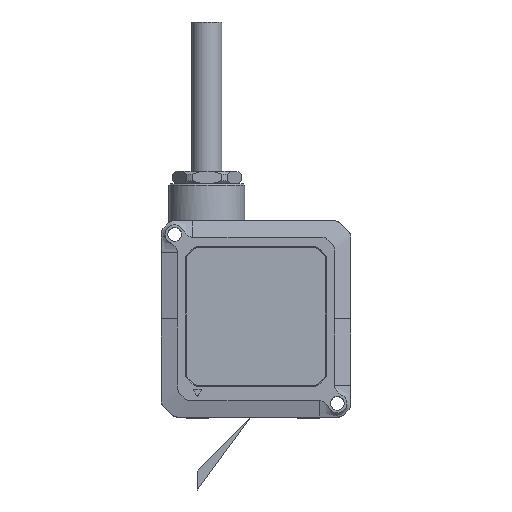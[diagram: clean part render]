
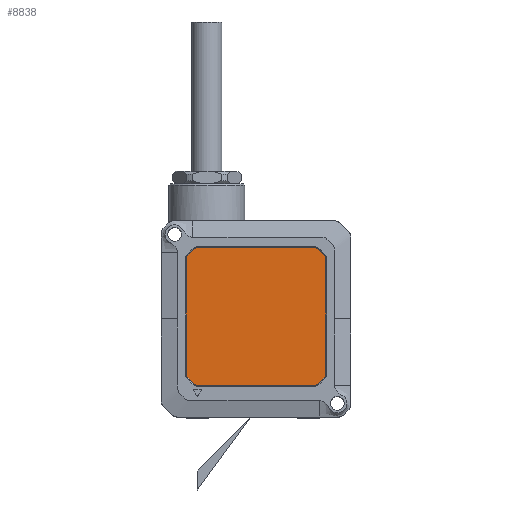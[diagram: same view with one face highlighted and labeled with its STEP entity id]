
A CAD part, top view. The second image highlights one B-rep face of the part: STEP entity #8838.
In plain terms, the highlighted planar face has unit normal (0, 0, 1).
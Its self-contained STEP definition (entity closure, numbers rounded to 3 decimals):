
#5291=CARTESIAN_POINT('',(20.,18.67,38.3));
#5292=DIRECTION('',(0.,0.,-1.));
#5293=DIRECTION('',(0.707,0.707,0.));
#5294=AXIS2_PLACEMENT_3D('',#5291,#5292,#5293);
#5296=DIRECTION('',(0.,-1.,0.));
#5297=VECTOR('',#5296,35.84);
#5298=CARTESIAN_POINT('',(22.1,18.67,38.3));
#5299=LINE('',#5298,#5297);
#5300=CARTESIAN_POINT('',(20.,-17.17,38.3));
#5301=DIRECTION('',(0.,0.,-1.));
#5302=DIRECTION('',(1.,0.,0.));
#5303=AXIS2_PLACEMENT_3D('',#5300,#5301,#5302);
#5305=DIRECTION('',(-0.707,-0.707,0.));
#5306=VECTOR('',#5305,2.588);
#5307=CARTESIAN_POINT('',(21.485,-18.655,38.3));
#5308=LINE('',#5307,#5306);
#5309=CARTESIAN_POINT('',(18.17,-19.,38.3));
#5310=DIRECTION('',(0.,0.,-1.));
#5311=DIRECTION('',(0.707,-0.707,0.));
#5312=AXIS2_PLACEMENT_3D('',#5309,#5310,#5311);
#5314=DIRECTION('',(-1.,0.,0.));
#5315=VECTOR('',#5314,36.34);
#5316=CARTESIAN_POINT('',(18.17,-21.1,38.3));
#5317=LINE('',#5316,#5315);
#5318=CARTESIAN_POINT('',(-18.17,-19.,38.3));
#5319=DIRECTION('',(0.,0.,-1.));
#5320=DIRECTION('',(0.,-1.,0.));
#5321=AXIS2_PLACEMENT_3D('',#5318,#5319,#5320);
#5323=DIRECTION('',(-0.707,0.707,0.));
#5324=VECTOR('',#5323,2.588);
#5325=CARTESIAN_POINT('',(-19.655,-20.485,38.3));
#5326=LINE('',#5325,#5324);
#5327=CARTESIAN_POINT('',(-20.,-17.17,38.3));
#5328=DIRECTION('',(0.,0.,-1.));
#5329=DIRECTION('',(-0.707,-0.707,0.));
#5330=AXIS2_PLACEMENT_3D('',#5327,#5328,#5329);
#5332=DIRECTION('',(0.,1.,0.));
#5333=VECTOR('',#5332,35.84);
#5334=CARTESIAN_POINT('',(-22.1,-17.17,38.3));
#5335=LINE('',#5334,#5333);
#5336=CARTESIAN_POINT('',(-20.,18.67,38.3));
#5337=DIRECTION('',(0.,0.,-1.));
#5338=DIRECTION('',(-1.,0.,0.));
#5339=AXIS2_PLACEMENT_3D('',#5336,#5337,#5338);
#5341=DIRECTION('',(0.707,0.707,0.));
#5342=VECTOR('',#5341,2.588);
#5343=CARTESIAN_POINT('',(-21.485,20.155,38.3));
#5344=LINE('',#5343,#5342);
#5345=CARTESIAN_POINT('',(-18.17,20.5,38.3));
#5346=DIRECTION('',(0.,0.,-1.));
#5347=DIRECTION('',(-0.707,0.707,0.));
#5348=AXIS2_PLACEMENT_3D('',#5345,#5346,#5347);
#5350=DIRECTION('',(1.,0.,0.));
#5351=VECTOR('',#5350,36.34);
#5352=CARTESIAN_POINT('',(-18.17,22.6,38.3));
#5353=LINE('',#5352,#5351);
#5354=CARTESIAN_POINT('',(18.17,20.5,38.3));
#5355=DIRECTION('',(0.,0.,-1.));
#5356=DIRECTION('',(0.,1.,0.));
#5357=AXIS2_PLACEMENT_3D('',#5354,#5355,#5356);
#5359=DIRECTION('',(0.707,-0.707,0.));
#5360=VECTOR('',#5359,2.588);
#5361=CARTESIAN_POINT('',(19.655,21.985,38.3));
#5362=LINE('',#5361,#5360);
#7189=CARTESIAN_POINT('',(22.1,18.67,38.3));
#7190=CARTESIAN_POINT('',(21.485,20.155,38.3));
#7191=VERTEX_POINT('',#7189);
#7192=VERTEX_POINT('',#7190);
#7193=CARTESIAN_POINT('',(19.655,21.985,38.3));
#7194=VERTEX_POINT('',#7193);
#7195=CARTESIAN_POINT('',(18.17,22.6,38.3));
#7196=VERTEX_POINT('',#7195);
#7197=CARTESIAN_POINT('',(-18.17,22.6,38.3));
#7198=VERTEX_POINT('',#7197);
#7199=CARTESIAN_POINT('',(-19.655,21.985,38.3));
#7200=VERTEX_POINT('',#7199);
#7201=CARTESIAN_POINT('',(-21.485,20.155,38.3));
#7202=VERTEX_POINT('',#7201);
#7203=CARTESIAN_POINT('',(-22.1,18.67,38.3));
#7204=VERTEX_POINT('',#7203);
#7205=CARTESIAN_POINT('',(-22.1,-17.17,38.3));
#7206=VERTEX_POINT('',#7205);
#7207=CARTESIAN_POINT('',(-21.485,-18.655,38.3));
#7208=VERTEX_POINT('',#7207);
#7209=CARTESIAN_POINT('',(-19.655,-20.485,38.3));
#7210=VERTEX_POINT('',#7209);
#7211=CARTESIAN_POINT('',(-18.17,-21.1,38.3));
#7212=VERTEX_POINT('',#7211);
#7213=CARTESIAN_POINT('',(18.17,-21.1,38.3));
#7214=VERTEX_POINT('',#7213);
#7215=CARTESIAN_POINT('',(19.655,-20.485,38.3));
#7216=VERTEX_POINT('',#7215);
#7217=CARTESIAN_POINT('',(21.485,-18.655,38.3));
#7218=VERTEX_POINT('',#7217);
#7219=CARTESIAN_POINT('',(22.1,-17.17,38.3));
#7220=VERTEX_POINT('',#7219);
#8799=CARTESIAN_POINT('',(0.,0.,38.3));
#8800=DIRECTION('',(0.,0.,1.));
#8801=DIRECTION('',(-1.,0.,0.));
#8802=AXIS2_PLACEMENT_3D('',#8799,#8800,#8801);
#8803=PLANE('',#8802);
#8805=ORIENTED_EDGE('',*,*,#8804,.T.);
#8807=ORIENTED_EDGE('',*,*,#8806,.T.);
#8809=ORIENTED_EDGE('',*,*,#8808,.T.);
#8811=ORIENTED_EDGE('',*,*,#8810,.T.);
#8813=ORIENTED_EDGE('',*,*,#8812,.T.);
#8815=ORIENTED_EDGE('',*,*,#8814,.T.);
#8817=ORIENTED_EDGE('',*,*,#8816,.T.);
#8819=ORIENTED_EDGE('',*,*,#8818,.T.);
#8821=ORIENTED_EDGE('',*,*,#8820,.T.);
#8823=ORIENTED_EDGE('',*,*,#8822,.T.);
#8825=ORIENTED_EDGE('',*,*,#8824,.T.);
#8827=ORIENTED_EDGE('',*,*,#8826,.T.);
#8829=ORIENTED_EDGE('',*,*,#8828,.T.);
#8831=ORIENTED_EDGE('',*,*,#8830,.T.);
#8833=ORIENTED_EDGE('',*,*,#8832,.T.);
#8835=ORIENTED_EDGE('',*,*,#8834,.T.);
#8836=EDGE_LOOP('',(#8805,#8807,#8809,#8811,#8813,#8815,#8817,#8819,#8821,#8823,
#8825,#8827,#8829,#8831,#8833,#8835));
#8837=FACE_OUTER_BOUND('',#8836,.F.);
#8838=ADVANCED_FACE('',(#8837),#8803,.T.);
#5295=CIRCLE('',#5294,2.1);
#5304=CIRCLE('',#5303,2.1);
#5313=CIRCLE('',#5312,2.1);
#5322=CIRCLE('',#5321,2.1);
#5331=CIRCLE('',#5330,2.1);
#5340=CIRCLE('',#5339,2.1);
#5349=CIRCLE('',#5348,2.1);
#5358=CIRCLE('',#5357,2.1);
#8804=EDGE_CURVE('',#7192,#7191,#5295,.T.);
#8806=EDGE_CURVE('',#7191,#7220,#5299,.T.);
#8808=EDGE_CURVE('',#7220,#7218,#5304,.T.);
#8810=EDGE_CURVE('',#7218,#7216,#5308,.T.);
#8812=EDGE_CURVE('',#7216,#7214,#5313,.T.);
#8814=EDGE_CURVE('',#7214,#7212,#5317,.T.);
#8816=EDGE_CURVE('',#7212,#7210,#5322,.T.);
#8818=EDGE_CURVE('',#7210,#7208,#5326,.T.);
#8820=EDGE_CURVE('',#7208,#7206,#5331,.T.);
#8822=EDGE_CURVE('',#7206,#7204,#5335,.T.);
#8824=EDGE_CURVE('',#7204,#7202,#5340,.T.);
#8826=EDGE_CURVE('',#7202,#7200,#5344,.T.);
#8828=EDGE_CURVE('',#7200,#7198,#5349,.T.);
#8830=EDGE_CURVE('',#7198,#7196,#5353,.T.);
#8832=EDGE_CURVE('',#7196,#7194,#5358,.T.);
#8834=EDGE_CURVE('',#7194,#7192,#5362,.T.);
